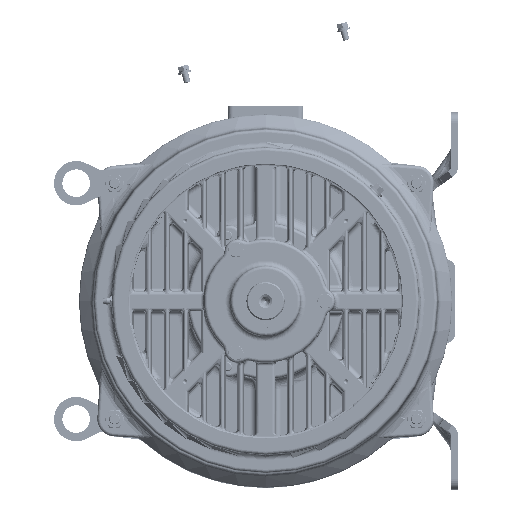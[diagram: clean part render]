
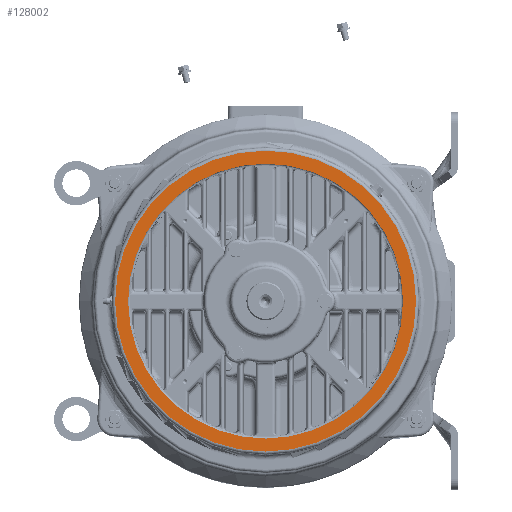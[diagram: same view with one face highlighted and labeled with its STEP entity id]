
A CAD part, left-side view. The second image highlights one B-rep face of the part: STEP entity #128002.
In plain terms, the highlighted planar face has unit normal (-1, 0, 0).
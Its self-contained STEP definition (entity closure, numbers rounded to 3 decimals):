
#9600 = CARTESIAN_POINT ( 'NONE',  ( -74., 0., 0. ) ) ;
#15809 = DIRECTION ( 'NONE',  ( -1., 0., 0. ) ) ;
#27645 = CIRCLE ( 'NONE', #30914, 127. ) ;
#28105 = ORIENTED_EDGE ( 'NONE', *, *, #103746, .T. ) ;
#30914 = AXIS2_PLACEMENT_3D ( 'NONE', #148857, #188315, #47378 ) ;
#31959 = FACE_OUTER_BOUND ( 'NONE', #181266, .T. ) ;
#41018 = AXIS2_PLACEMENT_3D ( 'NONE', #9600, #58106, #57078 ) ;
#43608 = AXIS2_PLACEMENT_3D ( 'NONE', #189378, #127709, #50459 ) ;
#47378 = DIRECTION ( 'NONE',  ( 0., 0., 1. ) ) ;
#48942 = AXIS2_PLACEMENT_3D ( 'NONE', #98955, #63987, #160689 ) ;
#50459 = DIRECTION ( 'NONE',  ( 0., 0., 1. ) ) ;
#50930 = AXIS2_PLACEMENT_3D ( 'NONE', #94193, #15809, #183675 ) ;
#57078 = DIRECTION ( 'NONE',  ( 0., 0., 1. ) ) ;
#58106 = DIRECTION ( 'NONE',  ( -1., 0., 0. ) ) ;
#60612 = EDGE_CURVE ( 'NONE', #129887, #102510, #27645, .T. ) ;
#63987 = DIRECTION ( 'NONE',  ( -1., 0., 0. ) ) ;
#73874 = CIRCLE ( 'NONE', #50930, 127. ) ;
#75035 = EDGE_CURVE ( 'NONE', #161012, #161601, #129785, .T. ) ;
#89199 = EDGE_CURVE ( 'NONE', #102510, #129887, #73874, .T. ) ;
#93858 = CARTESIAN_POINT ( 'NONE',  ( -74., 0., -127. ) ) ;
#94193 = CARTESIAN_POINT ( 'NONE',  ( -74., 0., 0. ) ) ;
#98955 = CARTESIAN_POINT ( 'NONE',  ( -74., 0., 0. ) ) ;
#102510 = VERTEX_POINT ( 'NONE', #93858 ) ;
#103746 = EDGE_CURVE ( 'NONE', #161601, #161012, #137664, .T. ) ;
#114796 = CARTESIAN_POINT ( 'NONE',  ( -74., 0., 139. ) ) ;
#127686 = EDGE_LOOP ( 'NONE', ( #138062, #154714 ) ) ;
#127709 = DIRECTION ( 'NONE',  ( -1., 0., 0. ) ) ;
#128002 = ADVANCED_FACE ( 'NONE', ( #31959, #146134 ), #145131, .T. ) ;
#129785 = CIRCLE ( 'NONE', #41018, 139. ) ;
#129887 = VERTEX_POINT ( 'NONE', #154802 ) ;
#137664 = CIRCLE ( 'NONE', #48942, 139. ) ;
#138062 = ORIENTED_EDGE ( 'NONE', *, *, #60612, .F. ) ;
#145131 = PLANE ( 'NONE',  #43608 ) ;
#146134 = FACE_BOUND ( 'NONE', #127686, .T. ) ;
#148857 = CARTESIAN_POINT ( 'NONE',  ( -74., 0., 0. ) ) ;
#154714 = ORIENTED_EDGE ( 'NONE', *, *, #89199, .F. ) ;
#154802 = CARTESIAN_POINT ( 'NONE',  ( -74., 0., 127. ) ) ;
#160689 = DIRECTION ( 'NONE',  ( 0., 0., 1. ) ) ;
#161012 = VERTEX_POINT ( 'NONE', #161123 ) ;
#161123 = CARTESIAN_POINT ( 'NONE',  ( -74., 0., -139. ) ) ;
#161601 = VERTEX_POINT ( 'NONE', #114796 ) ;
#181266 = EDGE_LOOP ( 'NONE', ( #28105, #188171 ) ) ;
#183675 = DIRECTION ( 'NONE',  ( 0., 0., 1. ) ) ;
#188171 = ORIENTED_EDGE ( 'NONE', *, *, #75035, .T. ) ;
#188315 = DIRECTION ( 'NONE',  ( -1., 0., 0. ) ) ;
#189378 = CARTESIAN_POINT ( 'NONE',  ( -74., -127., 0. ) ) ;
